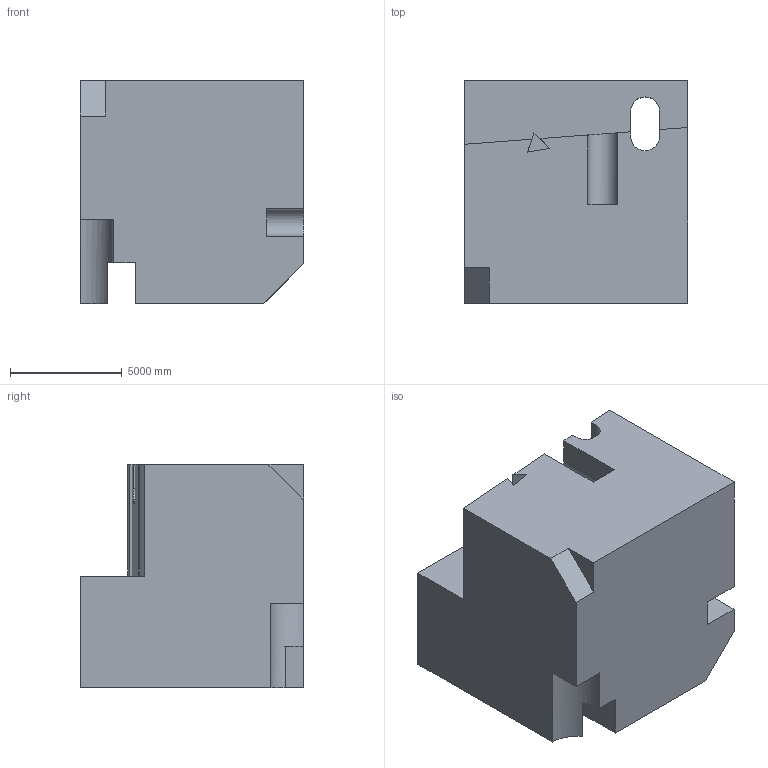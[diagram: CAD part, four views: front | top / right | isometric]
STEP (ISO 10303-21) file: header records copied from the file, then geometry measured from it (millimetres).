
FILE_DESCRIPTION (( 'STEP AP203' ), '1' );
FILE_NAME ('1814.STEP', '2022-08-26T14:44:37', ( 'user' ), ( '' ), 'SwSTEP 2.0', 'SolidWorks 2021', '' );
FILE_SCHEMA (( 'CONFIG_CONTROL_DESIGN' ));
Length unit declared in the file: centimetre
Products named in the file (1): 1814
Bounding box: 10000 x 10000 x 10000 mm (x, y, z)
Volume: 796381283554.4 mm3; surface area: 645265456.8 mm2
Topology: 1 solids, 1 shells, 35 faces, 105 edges, 70 vertices
Faces by surface type: plane 30, cylinder 5
Entity records: 1250 total; most frequent: CARTESIAN_POINT 220, ORIENTED_EDGE 210, DIRECTION 184, EDGE_CURVE 105, VECTOR 92, LINE 92, VERTEX_POINT 70, AXIS2_PLACEMENT_3D 46
